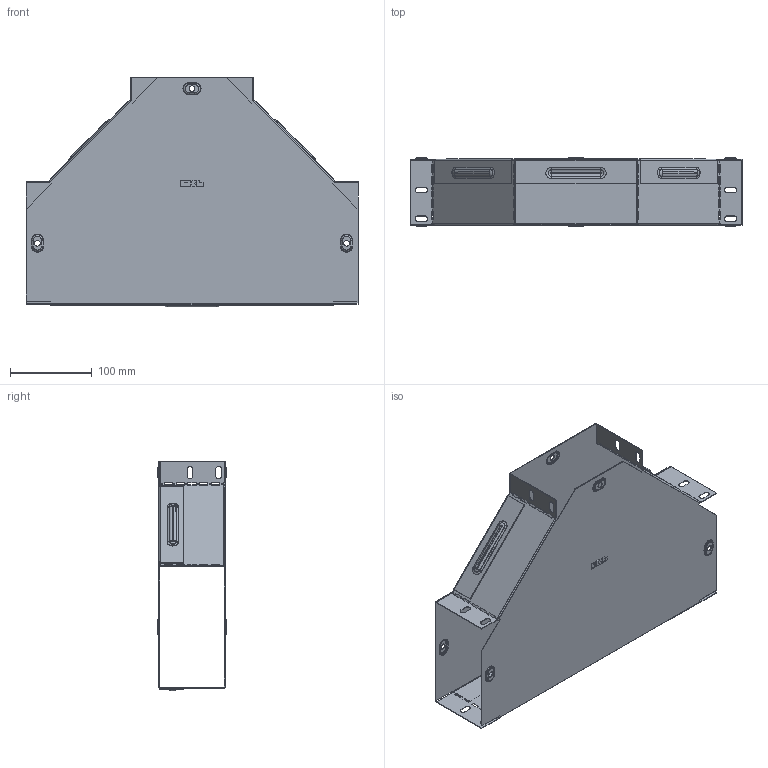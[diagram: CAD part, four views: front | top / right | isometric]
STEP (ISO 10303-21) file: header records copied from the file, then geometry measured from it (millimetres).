
FILE_DESCRIPTION (( 'STEP AP214' ), '1' );
FILE_NAME ('t8015008_捘.STEP', '2019-06-10T08:12:12', ( '砐錪賧瘔蠈錪 Windows' ), ( '' ), 'SwSTEP 2.0', 'SolidWorks 2018', '' );
FILE_SCHEMA (( 'AUTOMOTIVE_DESIGN' ));
Length unit declared in the file: millimetre
Products named in the file (1): t8015008_捘
Bounding box: 406.4 x 83.8 x 281 mm (x, y, z)
Volume: 205452.6 mm3; surface area: 517501 mm2
Topology: 2 solids, 2 shells, 716 faces, 2040 edges, 1324 vertices
Faces by surface type: plane 394, cylinder 208, torus 96, bspline 18
Entity records: 24409 total; most frequent: CARTESIAN_POINT 5161, ORIENTED_EDGE 4080, DIRECTION 3962, EDGE_CURVE 2040, VECTOR 1444, LINE 1444, VERTEX_POINT 1324, AXIS2_PLACEMENT_3D 1259
